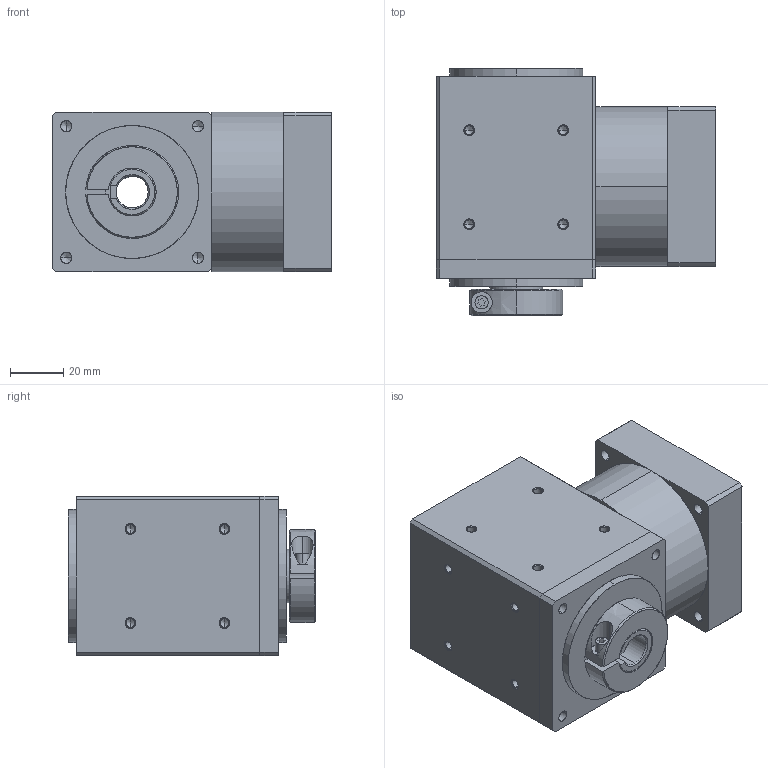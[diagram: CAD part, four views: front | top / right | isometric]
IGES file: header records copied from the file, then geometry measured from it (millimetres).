
Start section: SolidWorks IGES file using analytic representation for surfaces
Global section: file name: C:\Users\render\Documents\CAD Files\R-Gearboxes\RLHS\RLHS-060.IGS; native system: SolidWorks 2009; preprocessor: SolidWorks 2009; author: render; date: 100527.145530; units: millimetre
Bounding box: 105 x 93 x 60 mm (x, y, z)
Surface area: 65323 mm2 (no closed solid volume)
Topology: 0 solids, 0 shells, 243 faces, 3756 edges, 3716 vertices
Faces by surface type: revolution 187, bspline 56
